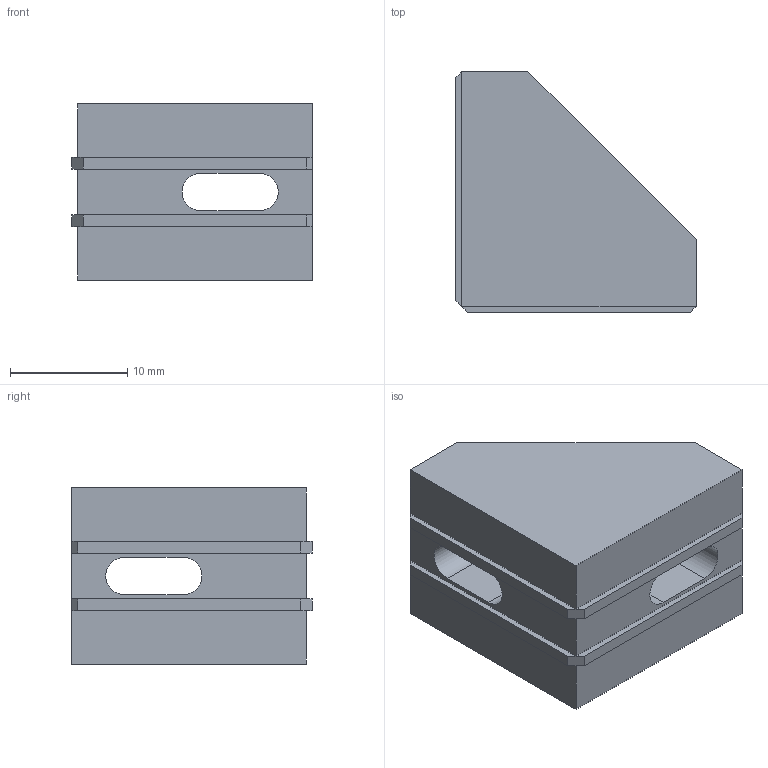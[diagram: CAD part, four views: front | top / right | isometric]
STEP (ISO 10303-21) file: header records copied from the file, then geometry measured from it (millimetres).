
FILE_DESCRIPTION(/* description */ (''),/* implementation_level */ '2;1');
FILE_NAME(/* name */ 'angolare_1515.stp',/* time_stamp */ '2025-08-14T13:43:23+02:00',/* author */ ('R5800u'),/* organization */ (''),/* preprocessor_version */ 'ST-DEVELOPER v20',/* originating_system */ 'Autodesk Inventor 2025',/* authorisation */ '');
FILE_SCHEMA (('AUTOMOTIVE_DESIGN { 1 0 10303 214 3 1 1 }'));
Length unit declared in the file: millimetre
Products named in the file (1): angolare_1515
Bounding box: 20.5 x 20.5 x 15 mm (x, y, z)
Volume: 2871.3 mm3; surface area: 2216.1 mm2
Topology: 1 solids, 1 shells, 58 faces, 148 edges, 92 vertices
Faces by surface type: plane 48, cylinder 10
Entity records: 1763 total; most frequent: CARTESIAN_POINT 299, ORIENTED_EDGE 296, DIRECTION 286, EDGE_CURVE 148, LINE 128, VECTOR 128, VERTEX_POINT 92, AXIS2_PLACEMENT_3D 79
